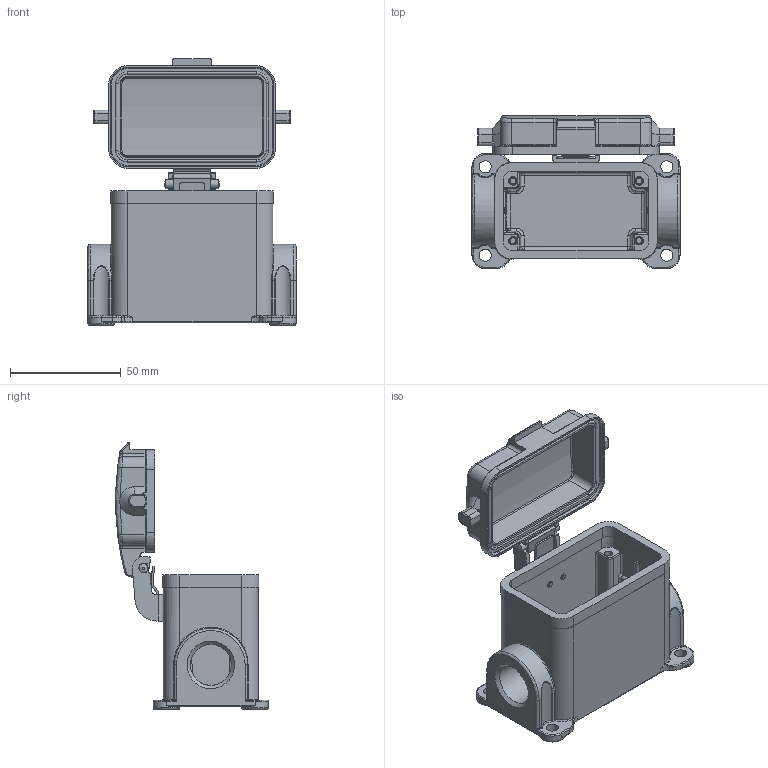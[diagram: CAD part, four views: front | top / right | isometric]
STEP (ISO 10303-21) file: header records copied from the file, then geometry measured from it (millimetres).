
FILE_DESCRIPTION (( 'STEP AP203' ), '1' );
FILE_NAME ('H10B-SDR-BO-M20.STEP', '2023-06-06T02:49:28', ( '' ), ( '' ), 'SwSTEP 2.0', 'SolidWorks 2016', '' );
FILE_SCHEMA (( 'CONFIG_CONTROL_DESIGN' ));
Products named in the file (1): H10B-SDR-BO-M20
Bounding box: 94 x 69.01 x 120.29 mm (x, y, z)
Volume: 93531.8 mm3; surface area: 54215.3 mm2
Topology: 1 solids, 3 shells, 893 faces, 2196 edges, 1333 vertices
Faces by surface type: cylinder 339, plane 234, torus 145, bspline 112, cone 48, sphere 15
Full cylindrical faces by diameter (mm): 2.5 x2, 3.2 x2, 4 x1, 5.5 x6, 12 x4, 16.5 x1, 18.5 x1, 18.6 x1
Entity records: 135612 total; most frequent: CARTESIAN_POINT 115881, ORIENTED_EDGE 4294, DIRECTION 3825, EDGE_CURVE 2147, AXIS2_PLACEMENT_3D 1490, VERTEX_POINT 1320, EDGE_LOOP 973, FACE_OUTER_BOUND 913
